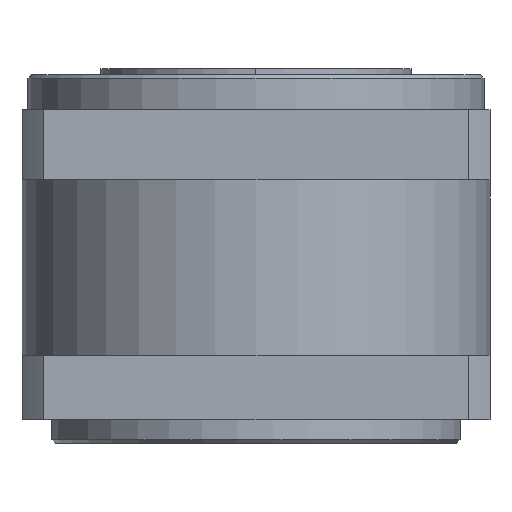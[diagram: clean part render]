
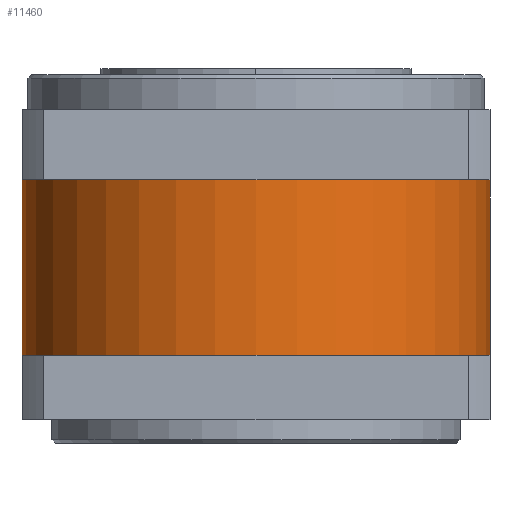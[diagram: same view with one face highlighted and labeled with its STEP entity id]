
A CAD part, front view. The second image highlights one B-rep face of the part: STEP entity #11460.
In plain terms, the highlighted cylindrical face has radius 20 mm (diameter 40 mm), a partial arc.
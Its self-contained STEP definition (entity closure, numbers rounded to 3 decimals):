
#352 = DIRECTION ( 'NONE',  ( 0., 0., 1. ) ) ;
#936 = CARTESIAN_POINT ( 'NONE',  ( 0., 0., 5.5 ) ) ;
#1406 = EDGE_LOOP ( 'NONE', ( #4413, #10381, #7384, #8431, #14592, #11763 ) ) ;
#1416 = LINE ( 'NONE', #7927, #3830 ) ;
#1775 = CARTESIAN_POINT ( 'NONE',  ( 0., -20., 5.5 ) ) ;
#1909 = DIRECTION ( 'NONE',  ( 0., 0., 1. ) ) ;
#2079 = LINE ( 'NONE', #6180, #4901 ) ;
#3026 = EDGE_CURVE ( 'NONE', #4746, #12206, #1416, .T. ) ;
#3681 = CARTESIAN_POINT ( 'NONE',  ( 0., 0., 5.5 ) ) ;
#3830 = VECTOR ( 'NONE', #1909, 1000. ) ;
#4025 = CIRCLE ( 'NONE', #13081, 20. ) ;
#4119 = CIRCLE ( 'NONE', #9989, 20. ) ;
#4346 = EDGE_CURVE ( 'NONE', #8646, #7998, #10522, .T. ) ;
#4413 = ORIENTED_EDGE ( 'NONE', *, *, #14986, .F. ) ;
#4681 = CARTESIAN_POINT ( 'NONE',  ( 0., 0., 20.5 ) ) ;
#4746 = VERTEX_POINT ( 'NONE', #6219 ) ;
#4894 = DIRECTION ( 'NONE',  ( 1., 0., 0. ) ) ;
#4901 = VECTOR ( 'NONE', #8555, 1000. ) ;
#5934 = DIRECTION ( 'NONE',  ( 1., 0., 0. ) ) ;
#6180 = CARTESIAN_POINT ( 'NONE',  ( -20., 0., 5.5 ) ) ;
#6219 = CARTESIAN_POINT ( 'NONE',  ( 20., 0., 5.5 ) ) ;
#6577 = DIRECTION ( 'NONE',  ( 0., 0., 1. ) ) ;
#6883 = DIRECTION ( 'NONE',  ( 0., 0., 1. ) ) ;
#7384 = ORIENTED_EDGE ( 'NONE', *, *, #12873, .T. ) ;
#7489 = CARTESIAN_POINT ( 'NONE',  ( 0., 0., 20.5 ) ) ;
#7515 = DIRECTION ( 'NONE',  ( 1., 0., 0. ) ) ;
#7868 = CARTESIAN_POINT ( 'NONE',  ( -20., 0., 5.5 ) ) ;
#7927 = CARTESIAN_POINT ( 'NONE',  ( 20., 0., 5.5 ) ) ;
#7998 = VERTEX_POINT ( 'NONE', #1775 ) ;
#8093 = DIRECTION ( 'NONE',  ( 1., 0., 0. ) ) ;
#8216 = CARTESIAN_POINT ( 'NONE',  ( 20., 0., 20.5 ) ) ;
#8274 = EDGE_CURVE ( 'NONE', #10043, #9374, #12237, .T. ) ;
#8306 = CARTESIAN_POINT ( 'NONE',  ( 0., -20., 20.5 ) ) ;
#8431 = ORIENTED_EDGE ( 'NONE', *, *, #3026, .T. ) ;
#8555 = DIRECTION ( 'NONE',  ( 0., 0., 1. ) ) ;
#8646 = VERTEX_POINT ( 'NONE', #7868 ) ;
#8948 = EDGE_CURVE ( 'NONE', #9374, #12206, #4119, .T. ) ;
#9374 = VERTEX_POINT ( 'NONE', #8306 ) ;
#9989 = AXIS2_PLACEMENT_3D ( 'NONE', #7489, #352, #7515 ) ;
#10043 = VERTEX_POINT ( 'NONE', #10851 ) ;
#10077 = AXIS2_PLACEMENT_3D ( 'NONE', #936, #6883, #8093 ) ;
#10381 = ORIENTED_EDGE ( 'NONE', *, *, #4346, .T. ) ;
#10522 = CIRCLE ( 'NONE', #15340, 20. ) ;
#10851 = CARTESIAN_POINT ( 'NONE',  ( -20., 0., 20.5 ) ) ;
#11460 = ADVANCED_FACE ( 'NONE', ( #13441 ), #13804, .T. ) ;
#11763 = ORIENTED_EDGE ( 'NONE', *, *, #8274, .F. ) ;
#11899 = AXIS2_PLACEMENT_3D ( 'NONE', #4681, #13057, #5934 ) ;
#12076 = DIRECTION ( 'NONE',  ( 0., 0., 1. ) ) ;
#12206 = VERTEX_POINT ( 'NONE', #8216 ) ;
#12237 = CIRCLE ( 'NONE', #11899, 20. ) ;
#12873 = EDGE_CURVE ( 'NONE', #7998, #4746, #4025, .T. ) ;
#13057 = DIRECTION ( 'NONE',  ( 0., 0., 1. ) ) ;
#13081 = AXIS2_PLACEMENT_3D ( 'NONE', #3681, #12076, #4894 ) ;
#13441 = FACE_OUTER_BOUND ( 'NONE', #1406, .T. ) ;
#13706 = CARTESIAN_POINT ( 'NONE',  ( 0., 0., 5.5 ) ) ;
#13804 = CYLINDRICAL_SURFACE ( 'NONE', #10077, 20. ) ;
#14592 = ORIENTED_EDGE ( 'NONE', *, *, #8948, .F. ) ;
#14924 = DIRECTION ( 'NONE',  ( 1., 0., 0. ) ) ;
#14986 = EDGE_CURVE ( 'NONE', #8646, #10043, #2079, .T. ) ;
#15340 = AXIS2_PLACEMENT_3D ( 'NONE', #13706, #6577, #14924 ) ;
